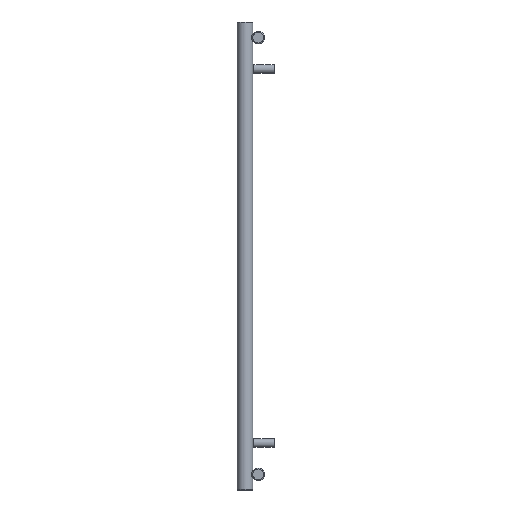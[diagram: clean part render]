
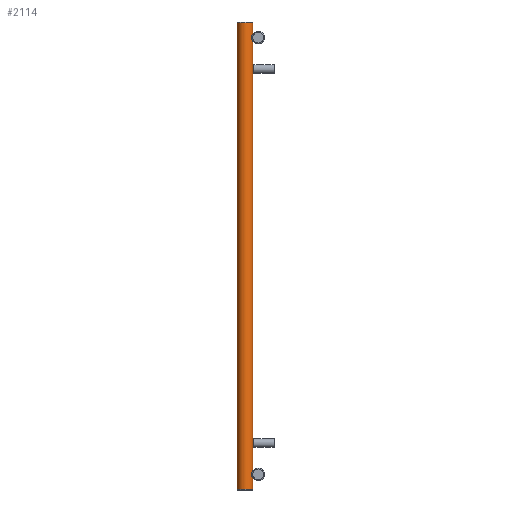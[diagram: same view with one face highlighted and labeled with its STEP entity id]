
A CAD part, left-side view. The second image highlights one B-rep face of the part: STEP entity #2114.
In plain terms, the highlighted cylindrical face has radius 20 mm (diameter 40 mm), a full revolution.
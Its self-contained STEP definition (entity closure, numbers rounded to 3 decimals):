
#164=FACE_BOUND('',#524,.T.);
#165=FACE_BOUND('',#525,.T.);
#199=LINE('',#3579,#274);
#274=VECTOR('',#2618,20.);
#349=CYLINDRICAL_SURFACE('',#2300,20.);
#382=FACE_OUTER_BOUND('',#523,.T.);
#523=EDGE_LOOP('',(#1469,#1470,#1471,#1472,#1473));
#524=EDGE_LOOP('',(#1474));
#525=EDGE_LOOP('',(#1475));
#692=B_SPLINE_CURVE_WITH_KNOTS('',3,(#3463,#3464,#3465,#3466,#3467,#3468,
#3469,#3470,#3471,#3472,#3473,#3474,#3475,#3476,#3477,#3478,#3479,#3480,
#3481,#3482,#3483),.UNSPECIFIED.,.T.,.F.,(4,1,1,1,1,1,1,1,1,1,1,1,1,1,1,
1,1,1,4),(-5.132,-4.765,-4.399,-4.154,
-3.91,-3.788,-3.666,-3.421,
-3.177,-2.933,-2.688,-2.199,
-1.955,-1.711,-1.466,-1.1,
-0.733,-0.367,0.),.UNSPECIFIED.);
#697=B_SPLINE_CURVE_WITH_KNOTS('',3,(#3583,#3584,#3585,#3586,#3587,#3588,
#3589,#3590,#3591,#3592,#3593,#3594,#3595,#3596,#3597,#3598,#3599,#3600,
#3601,#3602),.UNSPECIFIED.,.T.,.F.,(4,1,1,1,1,1,1,1,1,1,1,1,1,1,1,1,1,4),
(-5.132,-4.765,-4.399,-4.154,
-3.91,-3.666,-3.421,-3.177,-2.933,
-2.444,-2.199,-1.955,-1.711,-1.466,
-1.1,-0.733,-0.367,0.),
 .UNSPECIFIED.);
#751=CIRCLE('',#2301,20.);
#752=CIRCLE('',#2302,20.);
#753=CIRCLE('',#2303,20.);
#913=VERTEX_POINT('',#3439);
#921=VERTEX_POINT('',#3575);
#922=VERTEX_POINT('',#3576);
#923=VERTEX_POINT('',#3578);
#924=VERTEX_POINT('',#3582);
#1135=EDGE_CURVE('',#913,#913,#692,.T.);
#1143=EDGE_CURVE('',#921,#922,#751,.T.);
#1144=EDGE_CURVE('',#921,#923,#199,.T.);
#1145=EDGE_CURVE('',#923,#923,#752,.T.);
#1146=EDGE_CURVE('',#922,#921,#753,.T.);
#1147=EDGE_CURVE('',#924,#924,#697,.T.);
#1469=ORIENTED_EDGE('',*,*,#1143,.F.);
#1470=ORIENTED_EDGE('',*,*,#1144,.T.);
#1471=ORIENTED_EDGE('',*,*,#1145,.F.);
#1472=ORIENTED_EDGE('',*,*,#1144,.F.);
#1473=ORIENTED_EDGE('',*,*,#1146,.F.);
#1474=ORIENTED_EDGE('',*,*,#1147,.F.);
#1475=ORIENTED_EDGE('',*,*,#1135,.F.);
#2114=ADVANCED_FACE('',(#382,#164,#165),#349,.T.);
#2300=AXIS2_PLACEMENT_3D('',#3574,#2614,#2615);
#2301=AXIS2_PLACEMENT_3D('',#3577,#2616,#2617);
#2302=AXIS2_PLACEMENT_3D('',#3580,#2619,#2620);
#2303=AXIS2_PLACEMENT_3D('',#3581,#2621,#2622);
#2614=DIRECTION('center_axis',(0.,0.,1.));
#2615=DIRECTION('ref_axis',(-1.,0.,0.));
#2616=DIRECTION('center_axis',(0.,0.,1.));
#2617=DIRECTION('ref_axis',(-1.,0.,0.));
#2618=DIRECTION('',(0.,0.,-1.));
#2619=DIRECTION('center_axis',(0.,0.,-1.));
#2620=DIRECTION('ref_axis',(-1.,0.,0.));
#2621=DIRECTION('center_axis',(0.,0.,1.));
#2622=DIRECTION('ref_axis',(-1.,0.,0.));
#3439=CARTESIAN_POINT('',(-220.,-20.,50.1));
#3463=CARTESIAN_POINT('Ctrl Pts',(-220.,-20.,50.1));
#3464=CARTESIAN_POINT('Ctrl Pts',(-221.611,-20.,50.1));
#3465=CARTESIAN_POINT('Ctrl Pts',(-224.838,-19.598,49.587));
#3466=CARTESIAN_POINT('Ctrl Pts',(-228.411,-18.224,47.307));
#3467=CARTESIAN_POINT('Ctrl Pts',(-230.379,-17.114,44.115));
#3468=CARTESIAN_POINT('Ctrl Pts',(-230.993,-16.707,41.396));
#3469=CARTESIAN_POINT('Ctrl Pts',(-230.992,-16.708,39.163));
#3470=CARTESIAN_POINT('Ctrl Pts',(-230.666,-16.92,36.968));
#3471=CARTESIAN_POINT('Ctrl Pts',(-229.649,-17.552,34.429));
#3472=CARTESIAN_POINT('Ctrl Pts',(-227.534,-18.592,32.083));
#3473=CARTESIAN_POINT('Ctrl Pts',(-224.761,-19.504,30.58));
#3474=CARTESIAN_POINT('Ctrl Pts',(-220.581,-20.198,29.637));
#3475=CARTESIAN_POINT('Ctrl Pts',(-216.165,-19.824,30.09));
#3476=CARTESIAN_POINT('Ctrl Pts',(-212.466,-18.588,32.082));
#3477=CARTESIAN_POINT('Ctrl Pts',(-210.351,-17.556,34.43));
#3478=CARTESIAN_POINT('Ctrl Pts',(-208.927,-16.66,37.98));
#3479=CARTESIAN_POINT('Ctrl Pts',(-208.922,-16.66,42.599));
#3480=CARTESIAN_POINT('Ctrl Pts',(-211.137,-18.052,47.027));
#3481=CARTESIAN_POINT('Ctrl Pts',(-215.165,-19.6,49.585));
#3482=CARTESIAN_POINT('Ctrl Pts',(-218.389,-20.,50.1));
#3483=CARTESIAN_POINT('Ctrl Pts',(-220.,-20.,50.1));
#3574=CARTESIAN_POINT('Origin',(-220.,0.,0.));
#3575=CARTESIAN_POINT('',(-200.,0.,1198.));
#3576=CARTESIAN_POINT('',(-240.,0.,1198.));
#3577=CARTESIAN_POINT('Origin',(-220.,0.,1198.));
#3578=CARTESIAN_POINT('',(-200.,0.,2.));
#3579=CARTESIAN_POINT('',(-200.,0.,0.));
#3580=CARTESIAN_POINT('Origin',(-220.,0.,2.));
#3581=CARTESIAN_POINT('Origin',(-220.,0.,1198.));
#3582=CARTESIAN_POINT('',(-220.,-20.,1170.1));
#3583=CARTESIAN_POINT('Ctrl Pts',(-220.,-20.,1170.1));
#3584=CARTESIAN_POINT('Ctrl Pts',(-221.611,-20.,1170.1));
#3585=CARTESIAN_POINT('Ctrl Pts',(-224.838,-19.598,1169.588));
#3586=CARTESIAN_POINT('Ctrl Pts',(-228.412,-18.225,1167.308));
#3587=CARTESIAN_POINT('Ctrl Pts',(-230.38,-17.114,1164.116));
#3588=CARTESIAN_POINT('Ctrl Pts',(-231.115,-16.626,1160.853));
#3589=CARTESIAN_POINT('Ctrl Pts',(-230.87,-16.793,1157.475));
#3590=CARTESIAN_POINT('Ctrl Pts',(-229.65,-17.555,1154.43));
#3591=CARTESIAN_POINT('Ctrl Pts',(-227.535,-18.589,1152.082));
#3592=CARTESIAN_POINT('Ctrl Pts',(-223.836,-19.821,1150.088));
#3593=CARTESIAN_POINT('Ctrl Pts',(-219.419,-20.203,1149.641));
#3594=CARTESIAN_POINT('Ctrl Pts',(-215.24,-19.504,1150.58));
#3595=CARTESIAN_POINT('Ctrl Pts',(-212.467,-18.593,1152.084));
#3596=CARTESIAN_POINT('Ctrl Pts',(-210.351,-17.554,1154.428));
#3597=CARTESIAN_POINT('Ctrl Pts',(-208.928,-16.664,1157.98));
#3598=CARTESIAN_POINT('Ctrl Pts',(-208.923,-16.659,1162.598));
#3599=CARTESIAN_POINT('Ctrl Pts',(-211.135,-18.048,1167.029));
#3600=CARTESIAN_POINT('Ctrl Pts',(-215.165,-19.6,1169.585));
#3601=CARTESIAN_POINT('Ctrl Pts',(-218.389,-20.,1170.1));
#3602=CARTESIAN_POINT('Ctrl Pts',(-220.,-20.,1170.1));
